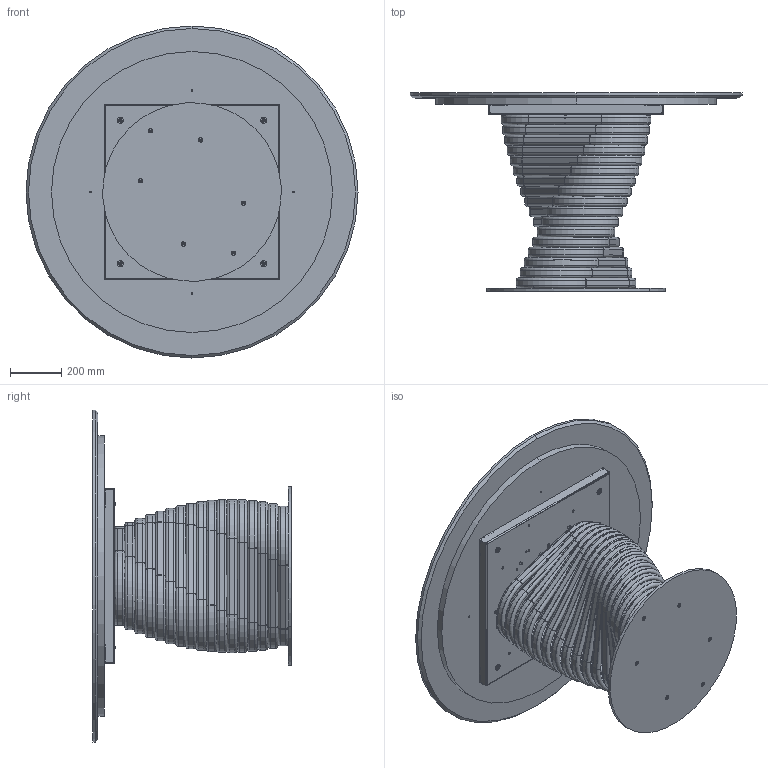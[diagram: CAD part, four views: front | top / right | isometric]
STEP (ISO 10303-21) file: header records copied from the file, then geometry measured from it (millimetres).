
FILE_DESCRIPTION (( 'STEP AP203' ), '1' );
FILE_NAME ('RO05M.STEP', '2024-08-07T13:10:39', ( '' ), ( '' ), 'SwSTEP 2.0', 'SolidWorks 2022', '' );
FILE_SCHEMA (( 'CONFIG_CONTROL_DESIGN' ));
Length unit declared in the file: millimetre
Products named in the file (17): ROBX00000SUP-00-Anello rotolo SUPERIORE_Default<A macchina>; rondella M8_8X24; ROB200000-00-PIASTRA BASE_Ø70cm; M8xXXmm_M8x20mm; TTAV0801-02-TELAIO UNIVERSALE TONDO; RO05M; ROBX00000INF-00-Anello rotolo INFERIORE_Default<A macchina>; M0X-00- D. piani marmo_D.1300; ROBX00000-00-ROTOLO BASE 17 ANELLI; M8xXXmm_hex_M8X20mm; COLLO TELAIO UNIVERSALE TTAV0801 CON FERRAMENTA_MTG TOP LEGNO-MARMO-KING; ROBX00000MED-00-Anello rotolo MEDIO_Default<A macchina>; TTAV0801-02-TELAIO UNIVERSALE TONDO-VASSOIO; TRU0000X-00-SOTTO PIANO D.XXXXmm_TRU00002 D.110cm ; TTAV0801 TELAIO UNIVERSALE TONDO-PIASTRINA; M0XMXX-00-Piani Rotondi in marmo 2024_1300; M8xXXmm_M8x55mm
Assembly tree (51 placements, depth 4):
  RO05M
    ROB200000-00-PIASTRA BASE_Ø70cm
    ROBX00000-00-ROTOLO BASE 17 ANELLI
      ROBX00000INF-00-Anello rotolo INFERIORE_Default<A macchina>
      ROBX00000MED-00-Anello rotolo MEDIO_Default<A macchina>  x15
      ROBX00000SUP-00-Anello rotolo SUPERIORE_Default<A macchina>
    M8xXXmm_hex_M8X20mm  x6
    COLLO TELAIO UNIVERSALE TTAV0801 CON FERRAMENTA_MTG TOP LEGNO-MARMO-KING
      TTAV0801-02-TELAIO UNIVERSALE TONDO
        TTAV0801-02-TELAIO UNIVERSALE TONDO-VASSOIO
        TTAV0801 TELAIO UNIVERSALE TONDO-PIASTRINA  x4
      rondella M8_8X24  x4
      M8xXXmm_M8x55mm  x4
    rondella M8_8X24  x4
    M8xXXmm_M8x20mm  x4
    M0XMXX-00-Piani Rotondi in marmo 2024_1300
      M0X-00- D. piani marmo_D.1300
      TRU0000X-00-SOTTO PIANO D.XXXXmm_TRU00002 D.110cm 
Bounding box: 1300 x 777 x 1300 mm (x, y, z)
Volume: 61908163.8 mm3; surface area: 11585882.5 mm2
Topology: 98 solids, 98 shells, 1802 faces, 4390 edges, 2755 vertices
Faces by surface type: plane 744, cylinder 656, torus 244, cone 158
Entity records: 24288 total; most frequent: CARTESIAN_POINT 5308, DIRECTION 3537, ORIENTED_EDGE 3290, EDGE_CURVE 1645, AXIS2_PLACEMENT_3D 1313, VERTEX_POINT 1054, VECTOR 911, LINE 911
